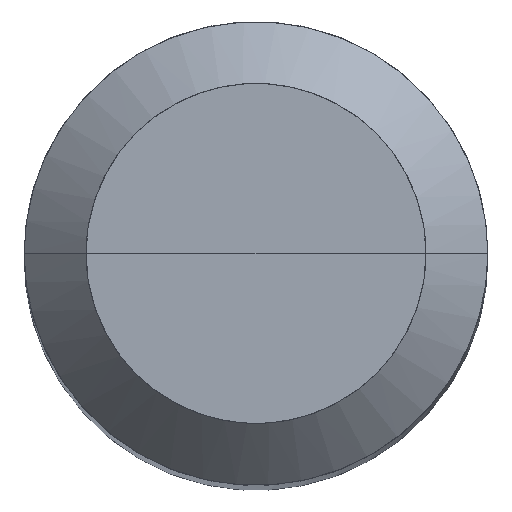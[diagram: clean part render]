
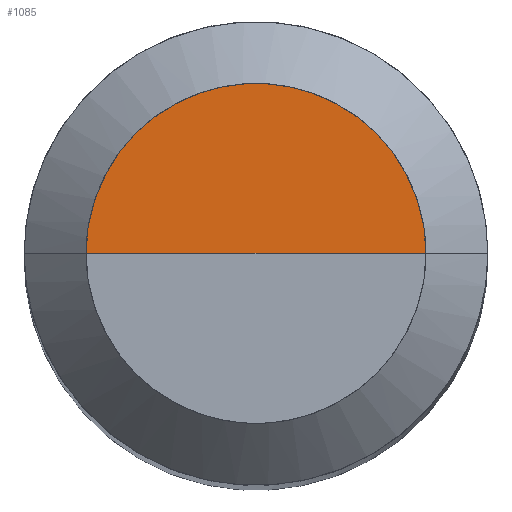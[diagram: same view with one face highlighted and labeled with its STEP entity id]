
A CAD part, top view. The second image highlights one B-rep face of the part: STEP entity #1085.
In plain terms, the highlighted free-form (B-spline) face has degree [1, 2] with [2, 5] control points.
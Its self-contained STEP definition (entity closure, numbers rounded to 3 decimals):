
#841=CARTESIAN_POINT('',(2.2,0.0,37.268));
#842=CARTESIAN_POINT('',(2.2,2.2,37.268));
#843=CARTESIAN_POINT('',(0.0,2.2,37.268));
#844=CARTESIAN_POINT('',(-2.2,2.2,37.268));
#845=CARTESIAN_POINT('',(-2.2,0.0,37.268));
#846=CARTESIAN_POINT('',(0.0,0.0,37.268));
#1070=(
BOUNDED_SURFACE()
B_SPLINE_SURFACE(1,2,(
(#841,#842,#843,#844,#845),
(#846,#846,#846,#846,#846)
), .UNSPECIFIED.,.F.,.F.,.F.)
B_SPLINE_SURFACE_WITH_KNOTS((2,2),(3,2,3),(
0.0,1.0),(
0.0,0.5,1.0), .UNSPECIFIED.)
GEOMETRIC_REPRESENTATION_ITEM()
RATIONAL_B_SPLINE_SURFACE(((1.0,0.707,1.0,0.707,1.0),
(1.0,0.707,1.0,0.707,1.0)
))
REPRESENTATION_ITEM('')
SURFACE()
);
#1071=(
BOUNDED_CURVE()
B_SPLINE_CURVE(2,(#845,#844,#843,#842,#841),.UNSPECIFIED.,.F.,.F.)
B_SPLINE_CURVE_WITH_KNOTS((3,2,3),
(0.0,0.5,1.0),.UNSPECIFIED.)
CURVE()
GEOMETRIC_REPRESENTATION_ITEM()
RATIONAL_B_SPLINE_CURVE((1.0,0.707,1.0,0.707,1.0))
REPRESENTATION_ITEM('')
);
#1072=(
BOUNDED_CURVE()
B_SPLINE_CURVE(1,(#841,#846),.UNSPECIFIED.,.F.,.F.)
B_SPLINE_CURVE_WITH_KNOTS((2,2),
(0.0,1.0),.UNSPECIFIED.)
CURVE()
GEOMETRIC_REPRESENTATION_ITEM()
RATIONAL_B_SPLINE_CURVE((1.0,1.0))
REPRESENTATION_ITEM('')
);
#1073=(
BOUNDED_CURVE()
B_SPLINE_CURVE(1,(#846,#845),.UNSPECIFIED.,.F.,.F.)
B_SPLINE_CURVE_WITH_KNOTS((2,2),
(0.0,1.0),.UNSPECIFIED.)
CURVE()
GEOMETRIC_REPRESENTATION_ITEM()
RATIONAL_B_SPLINE_CURVE((1.0,1.0))
REPRESENTATION_ITEM('')
);
#1074=VERTEX_POINT('',#841);
#1075=VERTEX_POINT('',#845);
#1076=VERTEX_POINT('',#846);
#1077=EDGE_CURVE('',#1075,#1074,#1071,.T.);
#1078=EDGE_CURVE('',#1074,#1076,#1072,.T.);
#1079=EDGE_CURVE('',#1076,#1075,#1073,.T.);
#1080=ORIENTED_EDGE('',*,*,#1077,.T.);
#1081=ORIENTED_EDGE('',*,*,#1078,.T.);
#1082=ORIENTED_EDGE('',*,*,#1079,.T.);
#1083=EDGE_LOOP('',(#1080,#1081,#1082));
#1084=FACE_OUTER_BOUND('',#1083,.T.);
#1085=ADVANCED_FACE('',(#1084),#1070,.T.);
